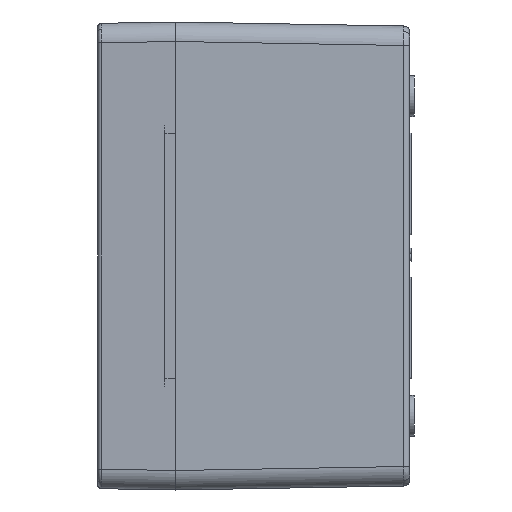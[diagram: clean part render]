
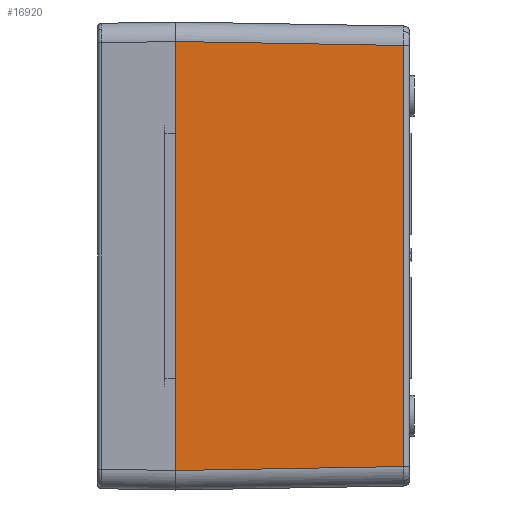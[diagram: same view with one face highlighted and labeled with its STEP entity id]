
A CAD part, left-side view. The second image highlights one B-rep face of the part: STEP entity #16920.
In plain terms, the highlighted planar face has unit normal (-1, -0.018, 0).
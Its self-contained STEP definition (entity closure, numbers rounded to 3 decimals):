
#1247 = EDGE_LOOP ( 'NONE', ( #17697, #15816, #3935, #18955 ) ) ;
#1744 = PLANE ( 'NONE',  #26439 ) ;
#2222 = CARTESIAN_POINT ( 'NONE',  ( -178.978, -58.526, -53.979 ) ) ;
#3431 = DIRECTION ( 'NONE',  ( 0., 0., 1. ) ) ;
#3935 = ORIENTED_EDGE ( 'NONE', *, *, #17779, .T. ) ;
#4066 = DIRECTION ( 'NONE',  ( -0.017, 1., 0.017 ) ) ;
#4196 = EDGE_CURVE ( 'NONE', #23433, #19983, #13937, .T. ) ;
#4481 = CARTESIAN_POINT ( 'NONE',  ( -178.978, -58.526, 60. ) ) ;
#6152 = LINE ( 'NONE', #4481, #23160 ) ;
#7968 = DIRECTION ( 'NONE',  ( 0.017, -1., 0.017 ) ) ;
#9905 = LINE ( 'NONE', #20443, #12972 ) ;
#10047 = EDGE_CURVE ( 'NONE', #23433, #16626, #9905, .T. ) ;
#10093 = VECTOR ( 'NONE', #3431, 1000. ) ;
#10297 = FACE_OUTER_BOUND ( 'NONE', #1247, .T. ) ;
#10697 = EDGE_CURVE ( 'NONE', #16626, #16597, #6152, .T. ) ;
#11418 = CARTESIAN_POINT ( 'NONE',  ( -180., 0., 55.001 ) ) ;
#12118 = CARTESIAN_POINT ( 'NONE',  ( -180., 0., 60. ) ) ;
#12463 = CARTESIAN_POINT ( 'NONE',  ( -178.978, -58.526, 53.979 ) ) ;
#12642 = DIRECTION ( 'NONE',  ( 0., 0., 1. ) ) ;
#12972 = VECTOR ( 'NONE', #7968, 1000. ) ;
#13937 = LINE ( 'NONE', #22375, #10093 ) ;
#14604 = DIRECTION ( 'NONE',  ( 0.017, -1., 0. ) ) ;
#15816 = ORIENTED_EDGE ( 'NONE', *, *, #10697, .T. ) ;
#16597 = VERTEX_POINT ( 'NONE', #12463 ) ;
#16626 = VERTEX_POINT ( 'NONE', #2222 ) ;
#16920 = ADVANCED_FACE ( 'NONE', ( #10297 ), #1744, .T. ) ;
#17697 = ORIENTED_EDGE ( 'NONE', *, *, #10047, .T. ) ;
#17779 = EDGE_CURVE ( 'NONE', #16597, #19983, #27319, .T. ) ;
#18955 = ORIENTED_EDGE ( 'NONE', *, *, #4196, .F. ) ;
#19983 = VERTEX_POINT ( 'NONE', #11418 ) ;
#20443 = CARTESIAN_POINT ( 'NONE',  ( -179.965, -2.006, -54.966 ) ) ;
#22375 = CARTESIAN_POINT ( 'NONE',  ( -180., 0., 60. ) ) ;
#23160 = VECTOR ( 'NONE', #12642, 1000. ) ;
#23354 = VECTOR ( 'NONE', #4066, 1000. ) ;
#23433 = VERTEX_POINT ( 'NONE', #25485 ) ;
#24986 = DIRECTION ( 'NONE',  ( -1., -0.017, 0. ) ) ;
#25368 = CARTESIAN_POINT ( 'NONE',  ( -180.002, 0.087, 55.002 ) ) ;
#25485 = CARTESIAN_POINT ( 'NONE',  ( -180., 0., -55.001 ) ) ;
#26439 = AXIS2_PLACEMENT_3D ( 'NONE', #12118, #24986, #14604 ) ;
#27319 = LINE ( 'NONE', #25368, #23354 ) ;
